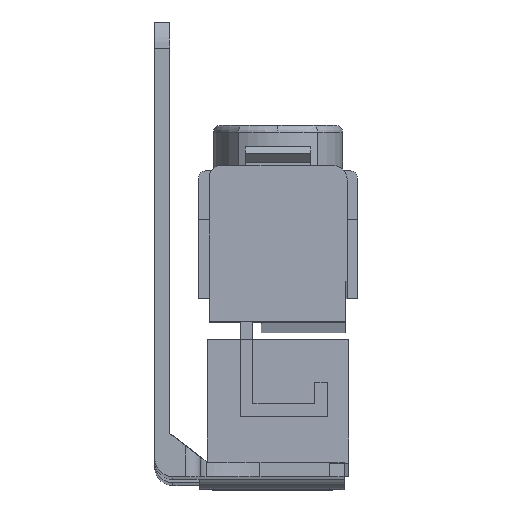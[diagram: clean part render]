
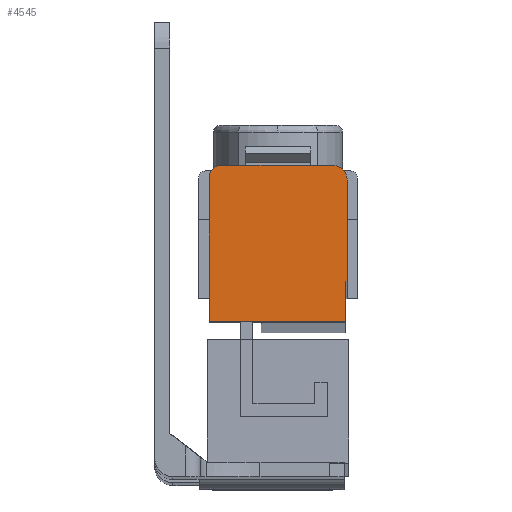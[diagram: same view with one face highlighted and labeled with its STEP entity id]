
A CAD part, front view. The second image highlights one B-rep face of the part: STEP entity #4545.
In plain terms, the highlighted planar face has unit normal (0, -1, 0.004).
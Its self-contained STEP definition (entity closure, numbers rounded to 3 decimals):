
#239 = VERTEX_POINT ( 'NONE', #550 ) ;
#242 = VERTEX_POINT ( 'NONE', #553 ) ;
#243 = VERTEX_POINT ( 'NONE', #554 ) ;
#244 = VERTEX_POINT ( 'NONE', #555 ) ;
#280 = VERTEX_POINT ( 'NONE', #591 ) ;
#281 = VERTEX_POINT ( 'NONE', #592 ) ;
#283 = VERTEX_POINT ( 'NONE', #594 ) ;
#288 = VERTEX_POINT ( 'NONE', #599 ) ;
#550 = CARTESIAN_POINT ( 'NONE',  ( 26.25, -24.79, -26.266 ) ) ;
#553 = CARTESIAN_POINT ( 'NONE',  ( 26.25, -24.769, -20.766 ) ) ;
#554 = CARTESIAN_POINT ( 'NONE',  ( 7.5, -24.714, -6.516 ) ) ;
#555 = CARTESIAN_POINT ( 'NONE',  ( 7.5, -24.79, -26.266 ) ) ;
#591 = CARTESIAN_POINT ( 'NONE',  ( 26.5, -24.716, -6.816 ) ) ;
#592 = CARTESIAN_POINT ( 'NONE',  ( 9.25, -24.708, -4.766 ) ) ;
#594 = CARTESIAN_POINT ( 'NONE',  ( 24.45, -24.708, -4.766 ) ) ;
#599 = CARTESIAN_POINT ( 'NONE',  ( 26.5, -24.769, -20.766 ) ) ;
#1503 = EDGE_CURVE ( 'NONE', #283, #281, #3958, .T. ) ;
#1508 = EDGE_CURVE ( 'NONE', #288, #280, #3968, .T. ) ;
#1510 = EDGE_CURVE ( 'NONE', #280, #283, #3973, .T. ) ;
#1512 = EDGE_CURVE ( 'NONE', #281, #243, #3976, .T. ) ;
#1516 = EDGE_CURVE ( 'NONE', #243, #244, #3982, .T. ) ;
#1517 = EDGE_CURVE ( 'NONE', #242, #288, #3984, .T. ) ;
#1520 = EDGE_CURVE ( 'NONE', #244, #239, #3990, .T. ) ;
#1521 = EDGE_CURVE ( 'NONE', #239, #242, #3992, .T. ) ;
#1656 = AXIS2_PLACEMENT_3D ( 'NONE', #4361, #4360, #4362 ) ;
#1657 = AXIS2_PLACEMENT_3D ( 'NONE', #4309, #4311, #4310 ) ;
#1930 = AXIS2_PLACEMENT_3D ( 'NONE', #4834, #4835, #4836 ) ;
#2612 = FACE_OUTER_BOUND ( 'NONE', #5152, .T. ) ;
#3958 = LINE ( 'NONE', #4353, #3959 ) ;
#3959 = VECTOR ( 'NONE', #4354, 1000. ) ;
#3968 = LINE ( 'NONE', #4343, #3969 ) ;
#3969 = VECTOR ( 'NONE', #4346, 1000. ) ;
#3973 = CIRCLE ( 'NONE', #1656, 2.05 ) ;
#3976 = CIRCLE ( 'NONE', #1657, 1.75 ) ;
#3982 = LINE ( 'NONE', #4308, #3983 ) ;
#3983 = VECTOR ( 'NONE', #4307, 1000. ) ;
#3984 = LINE ( 'NONE', #4305, #3985 ) ;
#3985 = VECTOR ( 'NONE', #4304, 1000. ) ;
#3990 = LINE ( 'NONE', #4299, #3991 ) ;
#3991 = VECTOR ( 'NONE', #4297, 1000. ) ;
#3992 = LINE ( 'NONE', #4298, #3993 ) ;
#3993 = VECTOR ( 'NONE', #4296, 1000. ) ;
#4296 = DIRECTION ( 'NONE',  ( 0., 0.004, 1. ) ) ;
#4297 = DIRECTION ( 'NONE',  ( 1., 0., 0. ) ) ;
#4298 = CARTESIAN_POINT ( 'NONE',  ( 26.25, -24.79, -26.266 ) ) ;
#4299 = CARTESIAN_POINT ( 'NONE',  ( 26.25, -24.79, -26.266 ) ) ;
#4304 = DIRECTION ( 'NONE',  ( 1., 0., 0. ) ) ;
#4305 = CARTESIAN_POINT ( 'NONE',  ( 7.5, -24.769, -20.766 ) ) ;
#4307 = DIRECTION ( 'NONE',  ( 0., -0.004, -1. ) ) ;
#4308 = CARTESIAN_POINT ( 'NONE',  ( 7.5, -24.714, -6.516 ) ) ;
#4309 = CARTESIAN_POINT ( 'NONE',  ( 9.25, -24.714, -6.516 ) ) ;
#4310 = DIRECTION ( 'NONE',  ( 0., -0.004, -1. ) ) ;
#4311 = DIRECTION ( 'NONE',  ( 0., -1., 0.004 ) ) ;
#4343 = CARTESIAN_POINT ( 'NONE',  ( 26.5, -24.716, -6.816 ) ) ;
#4346 = DIRECTION ( 'NONE',  ( 0., 0.004, 1. ) ) ;
#4353 = CARTESIAN_POINT ( 'NONE',  ( 9.25, -24.708, -4.766 ) ) ;
#4354 = DIRECTION ( 'NONE',  ( -1., 0., 0. ) ) ;
#4360 = DIRECTION ( 'NONE',  ( 0., -1., 0.004 ) ) ;
#4361 = CARTESIAN_POINT ( 'NONE',  ( 24.45, -24.716, -6.816 ) ) ;
#4362 = DIRECTION ( 'NONE',  ( 0., 0.004, 1. ) ) ;
#4365 = ORIENTED_EDGE ( 'NONE', *, *, #1503, .T. ) ;
#4366 = ORIENTED_EDGE ( 'NONE', *, *, #1510, .T. ) ;
#4367 = ORIENTED_EDGE ( 'NONE', *, *, #1508, .T. ) ;
#4545 = ADVANCED_FACE ( 'NONE', ( #2612 ), #4833, .T. ) ;
#4833 = PLANE ( 'NONE',  #1930 ) ;
#4834 = CARTESIAN_POINT ( 'NONE',  ( 9.25, -24.714, -6.516 ) ) ;
#4835 = DIRECTION ( 'NONE',  ( 0., -1., 0.004 ) ) ;
#4836 = DIRECTION ( 'NONE',  ( 0., -0.004, -1. ) ) ;
#5152 = EDGE_LOOP ( 'NONE', ( #4367, #4366, #4365, #6016, #6017, #6018, #6015, #6021 ) ) ;
#6015 = ORIENTED_EDGE ( 'NONE', *, *, #1521, .T. ) ;
#6016 = ORIENTED_EDGE ( 'NONE', *, *, #1512, .T. ) ;
#6017 = ORIENTED_EDGE ( 'NONE', *, *, #1516, .T. ) ;
#6018 = ORIENTED_EDGE ( 'NONE', *, *, #1520, .T. ) ;
#6021 = ORIENTED_EDGE ( 'NONE', *, *, #1517, .T. ) ;
